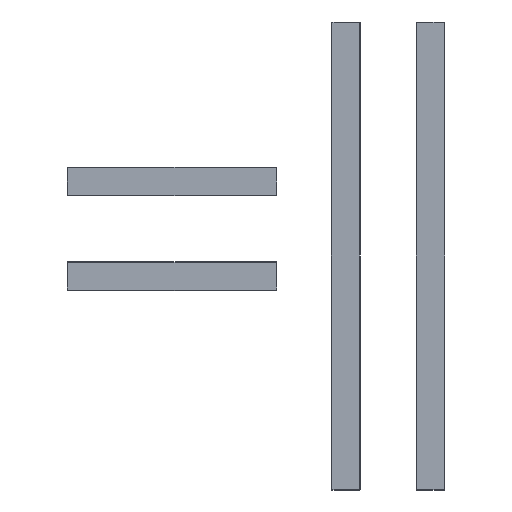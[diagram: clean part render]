
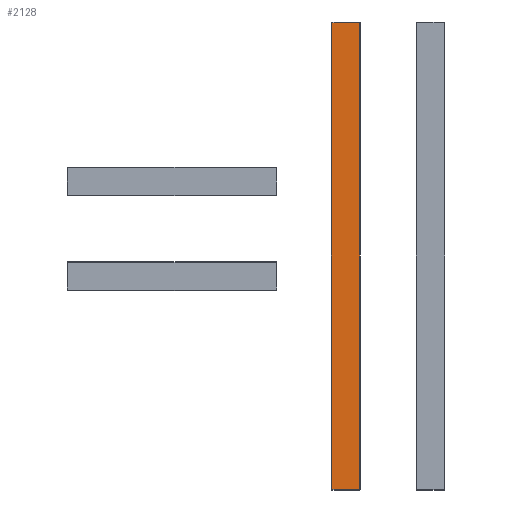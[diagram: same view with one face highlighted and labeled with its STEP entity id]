
A CAD part, front view. The second image highlights one B-rep face of the part: STEP entity #2128.
In plain terms, the highlighted free-form (B-spline) face has degree [1, 1] with [2, 2] control points.
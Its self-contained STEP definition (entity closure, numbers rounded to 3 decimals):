
#2036 = CARTESIAN_POINT ('', (788., -1601.021, 305.5));
#2037 = VERTEX_POINT ('', #2036);
#2073 = CARTESIAN_POINT ('', (714., -1601.021, 305.5));
#2074 = VERTEX_POINT ('', #2073);
#2084 = CARTESIAN_POINT ('', (788., -1601.021, 305.5));
#2085 = CARTESIAN_POINT ('', (714., -1601.021, 305.5));
#2086 = B_SPLINE_CURVE_WITH_KNOTS ('', 1, (#2084, #2085), .UNSPECIFIED., .F., .U., (2, 2), (0., 1.), .UNSPECIFIED.);
#2087 = EDGE_CURVE ('', #2037, #2074, #2086, .T.);
#2101 = CARTESIAN_POINT ('', (714., -1601.021, 1552.5));
#2102 = VERTEX_POINT ('', #2101);
#2103 = CARTESIAN_POINT ('', (714., -1601.021, 305.5));
#2104 = CARTESIAN_POINT ('', (714., -1601.021, 1552.5));
#2105 = B_SPLINE_CURVE_WITH_KNOTS ('', 1, (#2103, #2104), .UNSPECIFIED., .F., .U., (2, 2), (0., 1.), .UNSPECIFIED.);
#2106 = EDGE_CURVE ('', #2074, #2102, #2105, .T.);
#2107 = ORIENTED_EDGE ('', *, *, #2106, .F.);
#2108 = ORIENTED_EDGE ('', *, *, #2087, .F.);
#2109 = CARTESIAN_POINT ('', (788., -1601.021, 1552.5));
#2110 = VERTEX_POINT ('', #2109);
#2111 = CARTESIAN_POINT ('', (788., -1601.021, 1552.5));
#2112 = CARTESIAN_POINT ('', (788., -1601.021, 305.5));
#2113 = B_SPLINE_CURVE_WITH_KNOTS ('', 1, (#2111, #2112), .UNSPECIFIED., .F., .U., (2, 2), (0., 1.), .UNSPECIFIED.);
#2114 = EDGE_CURVE ('', #2110, #2037, #2113, .T.);
#2115 = ORIENTED_EDGE ('', *, *, #2114, .F.);
#2116 = CARTESIAN_POINT ('', (714., -1601.021, 1552.5));
#2117 = CARTESIAN_POINT ('', (788., -1601.021, 1552.5));
#2118 = B_SPLINE_CURVE_WITH_KNOTS ('', 1, (#2116, #2117), .UNSPECIFIED., .F., .U., (2, 2), (0., 1.), .UNSPECIFIED.);
#2119 = EDGE_CURVE ('', #2102, #2110, #2118, .T.);
#2120 = ORIENTED_EDGE ('', *, *, #2119, .F.);
#2121 = EDGE_LOOP ('', (#2107, #2108, #2115, #2120));
#2122 = FACE_OUTER_BOUND ('', #2121, .T.);
#2123 = CARTESIAN_POINT ('', (714., -1601.021, 305.5));
#2124 = CARTESIAN_POINT ('', (714., -1601.021, 1552.5));
#2125 = CARTESIAN_POINT ('', (788., -1601.021, 305.5));
#2126 = CARTESIAN_POINT ('', (788., -1601.021, 1552.5));
#2127 = B_SPLINE_SURFACE_WITH_KNOTS ('', 1, 1, ((#2123, #2124), (#2125, #2126)), .UNSPECIFIED., .F., .F., .U., (2, 2), (2, 2), (0., 1.), (0., 1.), .UNSPECIFIED.);
#2128 = ADVANCED_FACE ('', (#2122), #2127, .T.);
